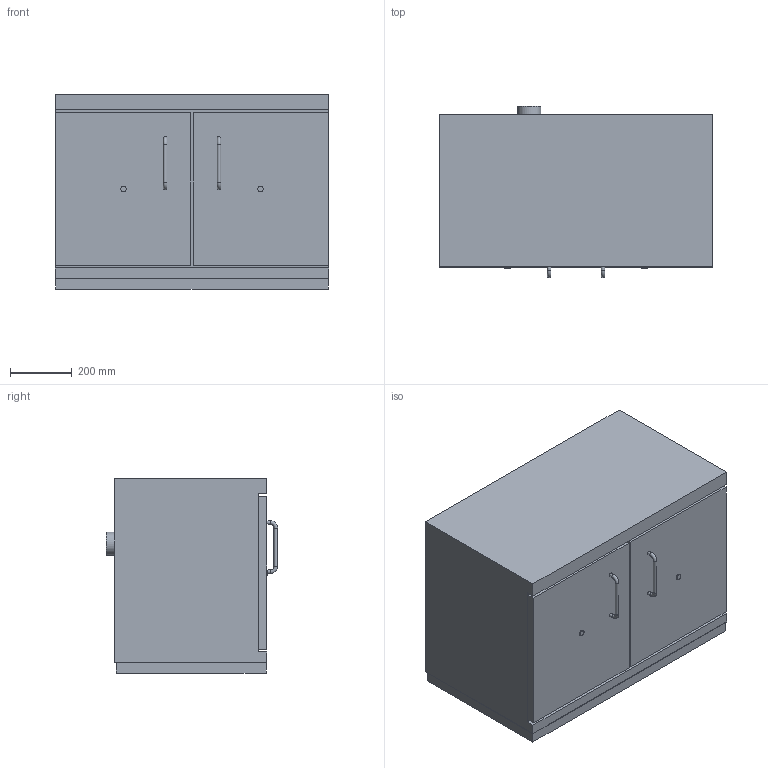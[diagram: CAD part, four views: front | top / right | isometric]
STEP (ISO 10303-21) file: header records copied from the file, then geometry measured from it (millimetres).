
FILE_DESCRIPTION(/* description */ ('Unknown'),/* implementation_level */ '2;1');
FILE_NAME(/* name */ '29-060957_VDK',/* time_stamp */ '2019-04-10T11:56:39+02:00',/* author */ ('Unknown'),/* organization */ ('Unknown'),/* preprocessor_version */ 'ST-DEVELOPER v16.7',/* originating_system */ 'DEX',/* authorisation */ $);
FILE_SCHEMA (('AUTOMOTIVE_DESIGN {1 0 10303 214 3 1 1}'));
Length unit declared in the file: millimetre
Products named in the file (1): 29-060957_VDK
Bounding box: 888.5 x 556 x 631 mm (x, y, z)
Volume: 275921085 mm3; surface area: 2762101.6 mm2
Topology: 1 solids, 1 shells, 43 faces, 101 edges, 67 vertices
Faces by surface type: plane 29, cylinder 10, torus 4
Full cylindrical faces by diameter (mm): 12 x6, 18 x2, 75 x2
Entity records: 1429 total; most frequent: DIRECTION 188, CARTESIAN_POINT 184, ORIENTED_EDGE 160, EDGE_CURVE 80, EDGE_LOOP 68, FACE_BOUND 68, AXIS2_PLACEMENT_3D 64, LINE 60
